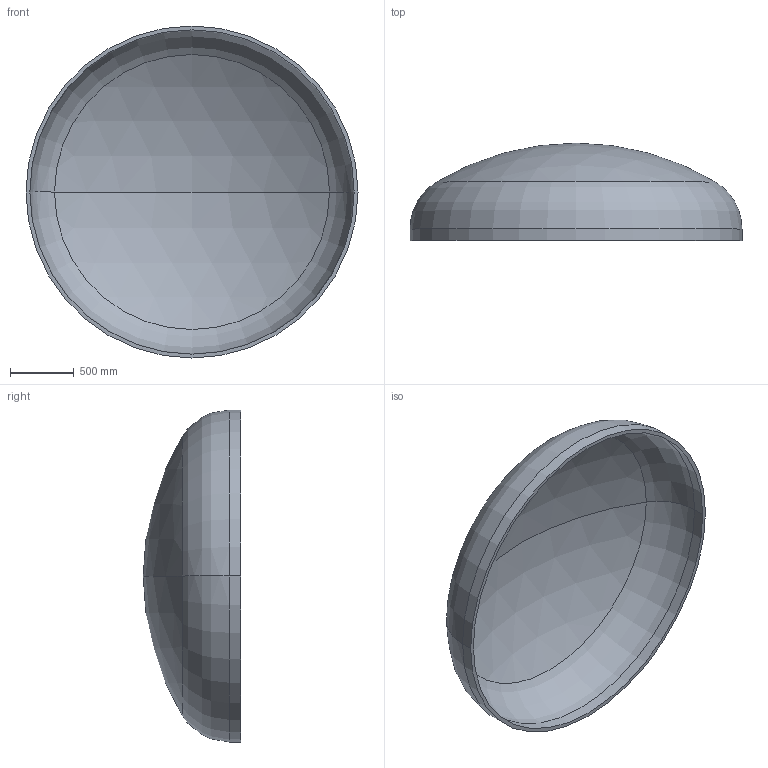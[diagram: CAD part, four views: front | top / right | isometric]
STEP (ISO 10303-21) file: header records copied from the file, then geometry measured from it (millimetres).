
FILE_DESCRIPTION (( 'STEP AP203' ), '1' );
FILE_NAME ('DIN 28013 Korbbogenform_-_Boden DIN 28013 - 2600 x 90 - I - s=30.step', '2016-07-01T16:04:49', ( '' ), ( '' ), 'SwSTEP 2.0', 'SolidWorks 2013', '' );
FILE_SCHEMA (( 'CONFIG_CONTROL_DESIGN' ));
Length unit declared in the file: millimetre
Products named in the file (1): DIN 28013 Korbbogenform_-_Boden DIN 28013 - 2600 x 90 - I - s=30
Bounding box: 2600 x 762.82 x 2600 mm (x, y, z)
Volume: 239015430.7 mm3; surface area: 16178458 mm2
Topology: 1 solids, 1 shells, 13 faces, 24 edges, 14 vertices
Faces by surface type: torus 4, cylinder 4, sphere 4, plane 1
Entity records: 407 total; most frequent: DIRECTION 72, CARTESIAN_POINT 52, ORIENTED_EDGE 48, AXIS2_PLACEMENT_3D 34, EDGE_CURVE 24, CIRCLE 20, VERTEX_POINT 14, EDGE_LOOP 14
